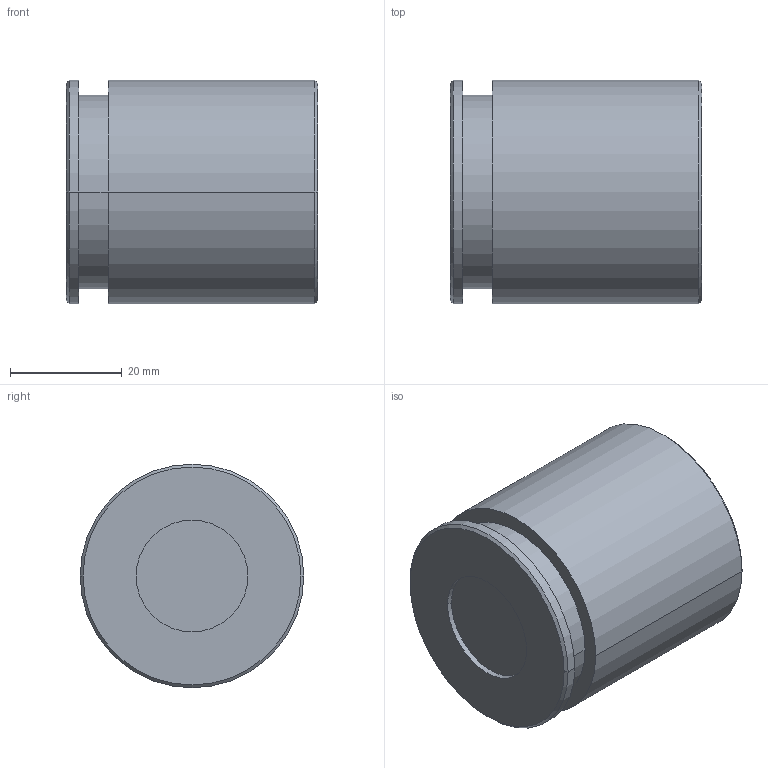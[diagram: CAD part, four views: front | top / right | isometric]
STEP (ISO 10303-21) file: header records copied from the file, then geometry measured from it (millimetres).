
FILE_DESCRIPTION((''),'2;1');
FILE_NAME('VJ3_20_050_02_226799','2021-06-02T',('l.soukupova'),(''),'PRO/ENGINEER BY PARAMETRIC TECHNOLOGY CORPORATION, 2015440','PRO/ENGINEER BY PARAMETRIC TECHNOLOGY CORPORATION, 2015440','');
FILE_SCHEMA(('AUTOMOTIVE_DESIGN { 1 0 10303 214 1 1 1 1 }'));
Length unit declared in the file: millimetre
Products named in the file (1): VJ3_20_050_02_226799
Bounding box: 45 x 40 x 40 mm (x, y, z)
Volume: 53112.8 mm3; surface area: 8888.1 mm2
Topology: 1 solids, 1 shells, 20 faces, 39 edges, 26 vertices
Faces by surface type: cylinder 10, plane 6, cone 4
Entity records: 719 total; most frequent: DIRECTION 105, CARTESIAN_POINT 86, ORIENTED_EDGE 76, AXIS2_PLACEMENT_3D 45, PRESENTATION_STYLE_ASSIGNMENT 41, STYLED_ITEM 41, CURVE_STYLE 40, EDGE_CURVE 38
